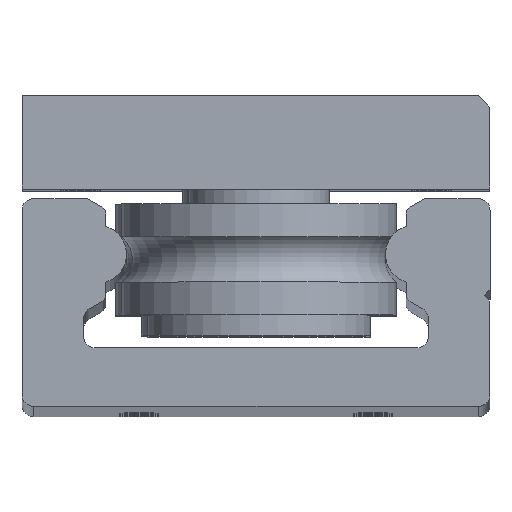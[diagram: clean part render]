
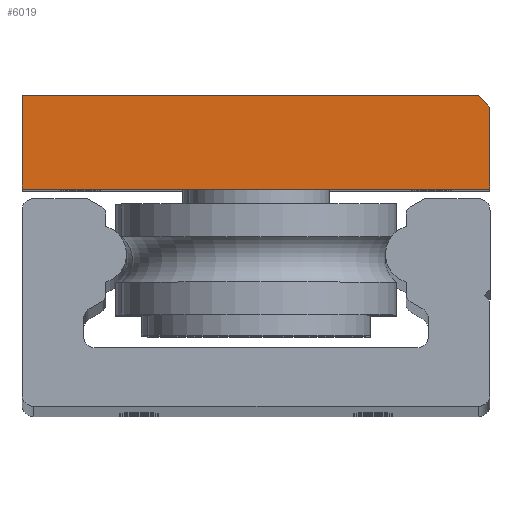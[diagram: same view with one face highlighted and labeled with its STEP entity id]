
A CAD part, top view. The second image highlights one B-rep face of the part: STEP entity #6019.
In plain terms, the highlighted planar face has unit normal (0, 0, 1).
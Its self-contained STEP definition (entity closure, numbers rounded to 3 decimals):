
#44 = DIRECTION ( 'NONE',  ( 1., 0., 0. ) ) ;
#179 = LINE ( 'NONE', #6481, #1324 ) ;
#282 = CARTESIAN_POINT ( 'NONE',  ( 40., 12., 200. ) ) ;
#659 = VECTOR ( 'NONE', #812, 1000. ) ;
#681 = VERTEX_POINT ( 'NONE', #282 ) ;
#686 = FACE_OUTER_BOUND ( 'NONE', #2569, .T. ) ;
#731 = CARTESIAN_POINT ( 'NONE',  ( 38., 28., 200. ) ) ;
#812 = DIRECTION ( 'NONE',  ( -1., 0., 0. ) ) ;
#840 = CARTESIAN_POINT ( 'NONE',  ( -40., 28., 200. ) ) ;
#926 = LINE ( 'NONE', #1486, #4331 ) ;
#1324 = VECTOR ( 'NONE', #44, 1000. ) ;
#1486 = CARTESIAN_POINT ( 'NONE',  ( 40., 28., 200. ) ) ;
#1535 = CARTESIAN_POINT ( 'NONE',  ( 40., 26., 200. ) ) ;
#1635 = ORIENTED_EDGE ( 'NONE', *, *, #4056, .T. ) ;
#1696 = CARTESIAN_POINT ( 'NONE',  ( 0., 0., 200. ) ) ;
#1729 = DIRECTION ( 'NONE',  ( 0., 0., 1. ) ) ;
#1989 = VERTEX_POINT ( 'NONE', #4914 ) ;
#2130 = DIRECTION ( 'NONE',  ( 0., 1., 0. ) ) ;
#2354 = VERTEX_POINT ( 'NONE', #1535 ) ;
#2563 = CARTESIAN_POINT ( 'NONE',  ( -40., 12., 200. ) ) ;
#2569 = EDGE_LOOP ( 'NONE', ( #3053, #4676, #1635, #5815, #2585 ) ) ;
#2585 = ORIENTED_EDGE ( 'NONE', *, *, #6934, .T. ) ;
#2606 = DIRECTION ( 'NONE',  ( -0.707, 0.707, 0. ) ) ;
#3019 = LINE ( 'NONE', #3165, #3525 ) ;
#3053 = ORIENTED_EDGE ( 'NONE', *, *, #5874, .T. ) ;
#3165 = CARTESIAN_POINT ( 'NONE',  ( -40., 28., 200. ) ) ;
#3433 = AXIS2_PLACEMENT_3D ( 'NONE', #1696, #1729, #6003 ) ;
#3525 = VECTOR ( 'NONE', #4649, 1000. ) ;
#4056 = EDGE_CURVE ( 'NONE', #4853, #1989, #5643, .T. ) ;
#4104 = CARTESIAN_POINT ( 'NONE',  ( 33., 33., 200. ) ) ;
#4331 = VECTOR ( 'NONE', #2130, 1000. ) ;
#4531 = EDGE_CURVE ( 'NONE', #1989, #6619, #3019, .T. ) ;
#4649 = DIRECTION ( 'NONE',  ( 0., -1., 0. ) ) ;
#4676 = ORIENTED_EDGE ( 'NONE', *, *, #5152, .T. ) ;
#4853 = VERTEX_POINT ( 'NONE', #731 ) ;
#4914 = CARTESIAN_POINT ( 'NONE',  ( -40., 28., 200. ) ) ;
#4990 = PLANE ( 'NONE',  #3433 ) ;
#5152 = EDGE_CURVE ( 'NONE', #2354, #4853, #6312, .T. ) ;
#5455 = VECTOR ( 'NONE', #2606, 1000. ) ;
#5643 = LINE ( 'NONE', #840, #659 ) ;
#5815 = ORIENTED_EDGE ( 'NONE', *, *, #4531, .T. ) ;
#5874 = EDGE_CURVE ( 'NONE', #681, #2354, #926, .T. ) ;
#6003 = DIRECTION ( 'NONE',  ( 1., 0., 0. ) ) ;
#6019 = ADVANCED_FACE ( 'NONE', ( #686 ), #4990, .T. ) ;
#6312 = LINE ( 'NONE', #4104, #5455 ) ;
#6481 = CARTESIAN_POINT ( 'NONE',  ( -40., 12., 200. ) ) ;
#6619 = VERTEX_POINT ( 'NONE', #2563 ) ;
#6934 = EDGE_CURVE ( 'NONE', #6619, #681, #179, .T. ) ;
